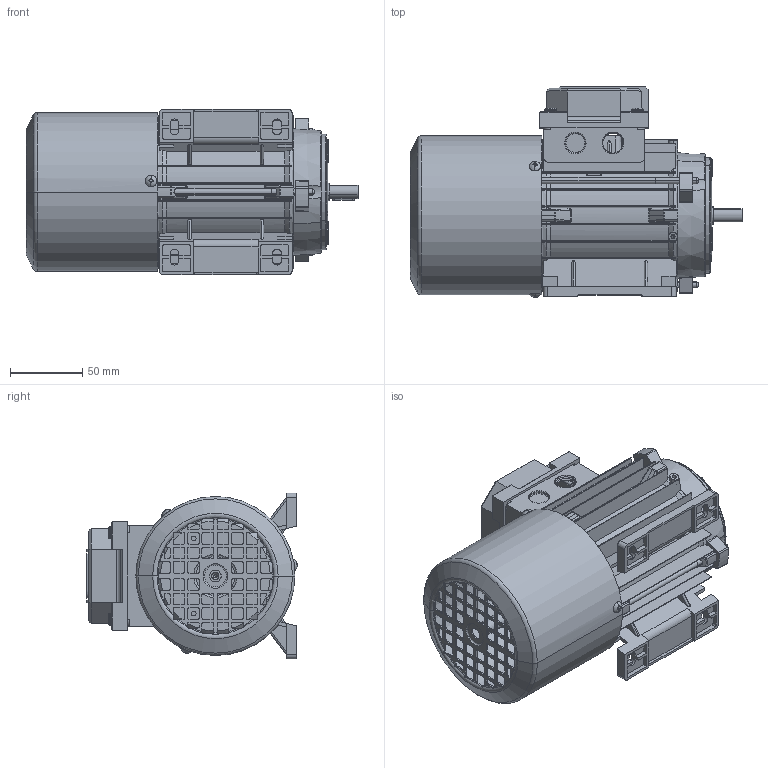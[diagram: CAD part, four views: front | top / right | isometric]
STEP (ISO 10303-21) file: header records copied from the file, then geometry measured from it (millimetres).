
FILE_DESCRIPTION (( 'STEP AP214' ), '1' );
FILE_NAME ('M14AA0010.STEP', '2020-11-03T10:03:47', ( '' ), ( '' ), 'SwSTEP 2.0', 'SolidWorks 2018', '' );
FILE_SCHEMA (( 'AUTOMOTIVE_DESIGN' ));
Length unit declared in the file: millimetre
Products named in the file (11): Carcassa 56 B3; M14AA0010; Vite testa rotonda M3; Chiavetta 56; Albero BM 56; Tirante BM-SM 56; Vite per coperchio morsettiera; Cuffia BM 56 - DHAI0103; Scudo Lato Comando B3 BM 56 - DHAD0002; Coperchio Morsettiera BM 56 - DHAE0002; Scudo Lato Freno P1 BM 56 - DHAB0002
Assembly tree (17 placements, depth 2):
  M14AA0010
    Carcassa 56 B3
    Scudo Lato Freno P1 BM 56 - DHAB0002
    Coperchio Morsettiera BM 56 - DHAE0002
    Scudo Lato Comando B3 BM 56 - DHAD0002
    Cuffia BM 56 - DHAI0103
    Vite per coperchio morsettiera  x4
    Tirante BM-SM 56  x3
    Albero BM 56
    Chiavetta 56
    Vite testa rotonda M3  x3
Bounding box: 229.6 x 145.67 x 114.5 mm (x, y, z)
Volume: 368794.9 mm3; surface area: 306584 mm2
Topology: 20 solids, 20 shells, 2710 faces, 7221 edges, 4566 vertices
Faces by surface type: cylinder 1056, plane 1035, torus 323, cone 199, bspline 75, sphere 22
Entity records: 84210 total; most frequent: CARTESIAN_POINT 24720, ORIENTED_EDGE 12814, DIRECTION 11890, EDGE_CURVE 6407, AXIS2_PLACEMENT_3D 4359, VERTEX_POINT 4084, VECTOR 3172, LINE 3172
